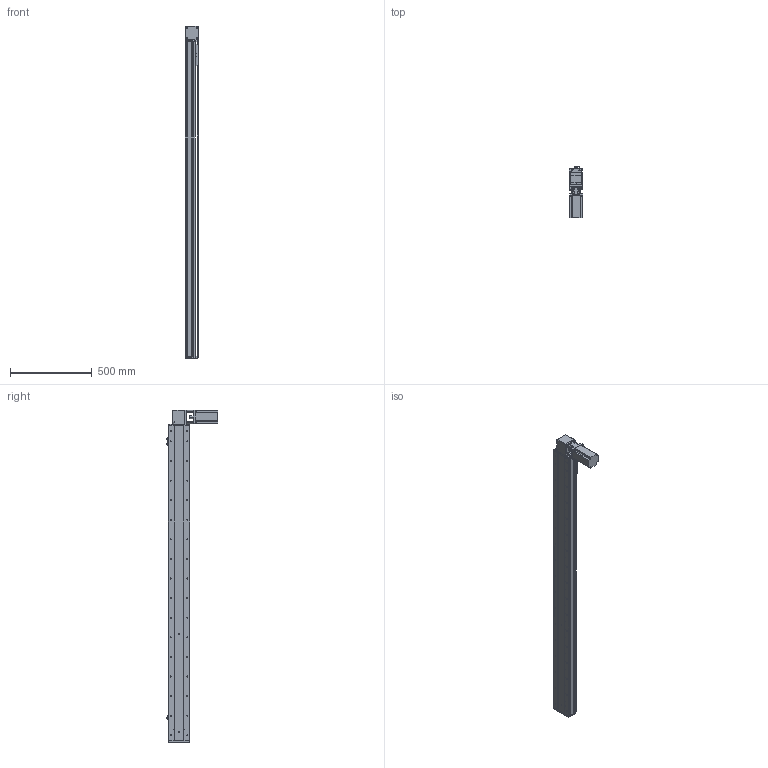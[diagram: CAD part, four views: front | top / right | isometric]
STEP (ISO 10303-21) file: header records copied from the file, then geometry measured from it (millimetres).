
FILE_DESCRIPTION (( 'STEP AP214' ), '1' );
FILE_NAME ('KSD130B-S1700-MLT-CM.STEP', '2019-09-23T07:37:56', ( '微软用户' ), ( '微软中国' ), 'SwSTEP 2.0', 'SolidWorks 2014', '' );
FILE_SCHEMA (( 'AUTOMOTIVE_DESIGN' ));
Length unit declared in the file: millimetre
Products named in the file (12): 台达ECMA－C20807AS伺服电机; 130宽马达安装板1-带电机座750W（1）; 覜茼え100遵圉猾敕; U倰嫖萇EEㄜSX672; 130宽安装板同步带带电机座750W; 130宽盖板半封闭同步带-1700行程; 130宽马达安装板同步带左-改; 130宽马达安装板同步带半封闭; 130宽同步带安装座半封闭; 130宽端盖同步带半封闭; 130宽底板半封闭同步带-1700行程; KSD130B-S1700-MLT-CM
Assembly tree (13 placements, depth 2):
  KSD130B-S1700-MLT-CM
    130宽底板半封闭同步带-1700行程
    130宽端盖同步带半封闭
    130宽同步带安装座半封闭
    130宽马达安装板同步带半封闭
    130宽马达安装板同步带左-改
    130宽盖板半封闭同步带-1700行程
    130宽安装板同步带带电机座750W
    U倰嫖萇EEㄜSX672  x3
    覜茼え100遵圉猾敕
    130宽马达安装板1-带电机座750W（1）
    台达ECMA－C20807AS伺服电机
Bounding box: 81 x 316 x 2033 mm (x, y, z)
Volume: 6850873.1 mm3; surface area: 1892553.8 mm2
Topology: 14 solids, 14 shells, 1709 faces, 4972 edges, 3151 vertices
Faces by surface type: cylinder 847, plane 633, cone 229
Entity records: 58255 total; most frequent: CARTESIAN_POINT 11289, DIRECTION 8774, ORIENTED_EDGE 8484, EDGE_CURVE 4242, AXIS2_PLACEMENT_3D 3248, VERTEX_POINT 2775, VECTOR 2278, LINE 2278
